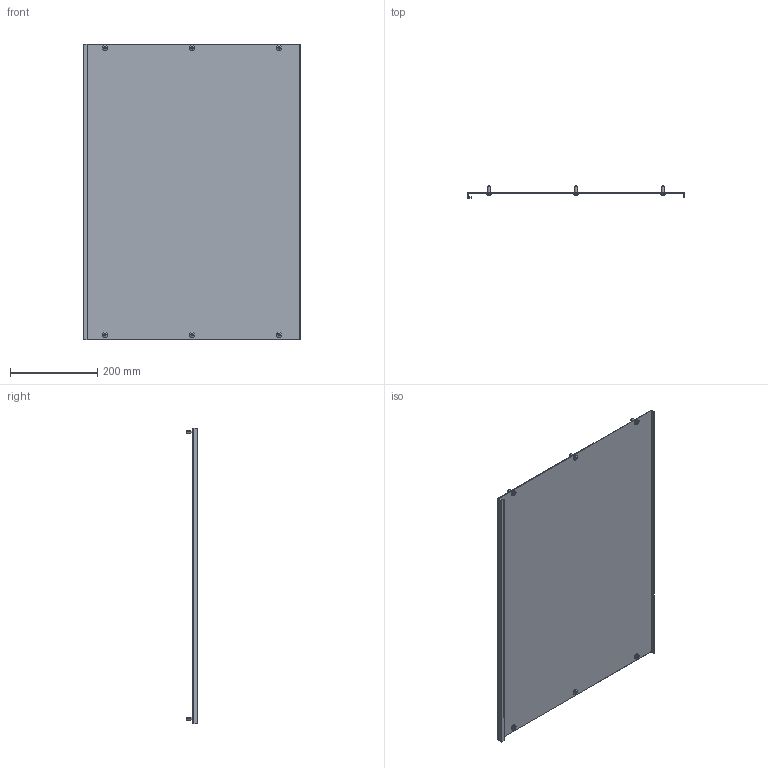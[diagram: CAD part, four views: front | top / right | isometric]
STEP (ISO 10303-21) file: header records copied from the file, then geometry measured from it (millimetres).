
FILE_DESCRIPTION (( 'STEP AP214' ), '1' );
FILE_NAME ('FO-00-PVS-050-080 Ïëàñòðîí ãëóõîé âíóòðåííèé 500õ800.STEP', '2025-09-30T07:09:29', ( '' ), ( '' ), 'SwSTEP 2.0', 'SolidWorks 2023', '' );
FILE_SCHEMA (( 'AUTOMOTIVE_DESIGN' ));
Length unit declared in the file: millimetre
Products named in the file (3): FO-00-PVS-050-080 Пластрон глухой внутренний 500х800; Винт M6x16 050 IEK
Assembly tree (3 placements, depth 2):
  FO-00-PVS-050-080 Пластрон глухой внутренний 500х800
    FO-00-PVS-050-080 Пластрон глухой внутренний 500х800
    Винт M6x16 050 IEK  x2
Bounding box: 498 x 27 x 679 mm (x, y, z)
Volume: 537960.8 mm3; surface area: 718774.7 mm2
Topology: 7 solids, 7 shells, 214 faces, 558 edges, 364 vertices
Faces by surface type: cylinder 132, plane 52, cone 18, bspline 12
Entity records: 4464 total; most frequent: CARTESIAN_POINT 1022, ORIENTED_EDGE 708, DIRECTION 692, EDGE_CURVE 354, AXIS2_PLACEMENT_3D 256, VERTEX_POINT 232, VECTOR 180, LINE 180
